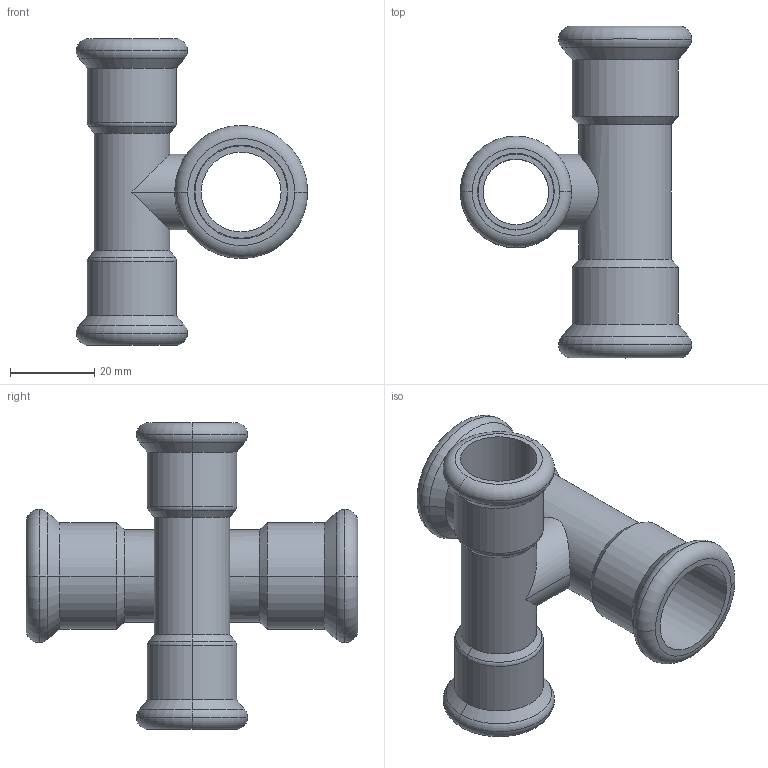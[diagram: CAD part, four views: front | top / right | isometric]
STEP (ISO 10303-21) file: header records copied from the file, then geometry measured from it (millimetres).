
FILE_DESCRIPTION(('CoCreate Modeling STEP Export'),'2;1');
FILE_NAME('C1434 22x18x22x18.stp','2014-11-12T16:28:44',(''),(''),'CoCreate Modeling STEP processor for AP214 (Solid Model)','CoCreate Modeling 17.00A 17-Jun-2010 (C) Parametric Technology GmbH','');
FILE_SCHEMA(('AUTOMOTIVE_DESIGN { 1 0 10303 214 1 1 1 1 }'));
Length unit declared in the file: millimetre
Products named in the file (2): C1434_22x18x22x18
Assembly tree (1 placements, depth 2):
  C1434_22x18x22x18
    C1434_22x18x22x18
Bounding box: 55.1 x 79 x 73 mm (x, y, z)
Volume: 20423.1 mm3; surface area: 22820.8 mm2
Topology: 1 solids, 2 shells, 88 faces, 184 edges, 108 vertices
Faces by surface type: cylinder 40, torus 20, cone 16, plane 12
Entity records: 3468 total; most frequent: CARTESIAN_POINT 1841, ORIENTED_EDGE 368, DIRECTION 282, EDGE_CURVE 184, AXIS2_PLACEMENT_3D 114, VERTEX_POINT 108, EDGE_LOOP 100, FACE_OUTER_BOUND 88
